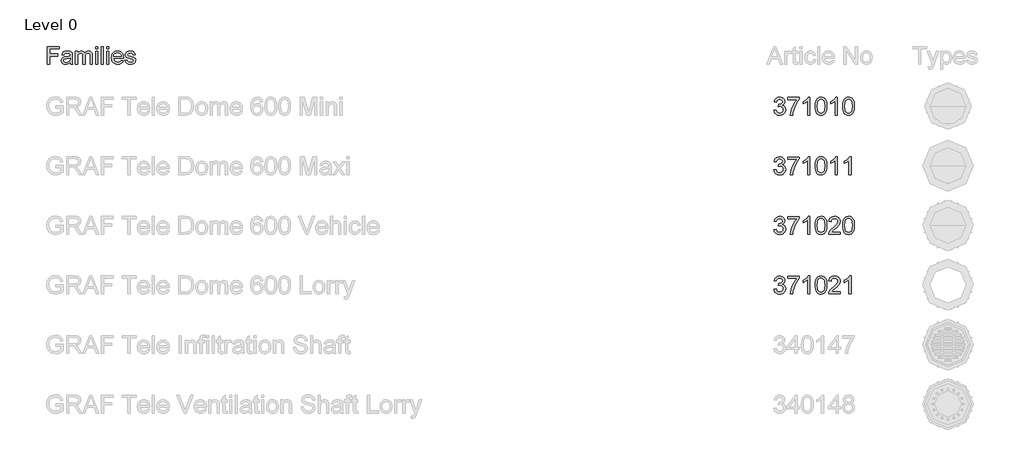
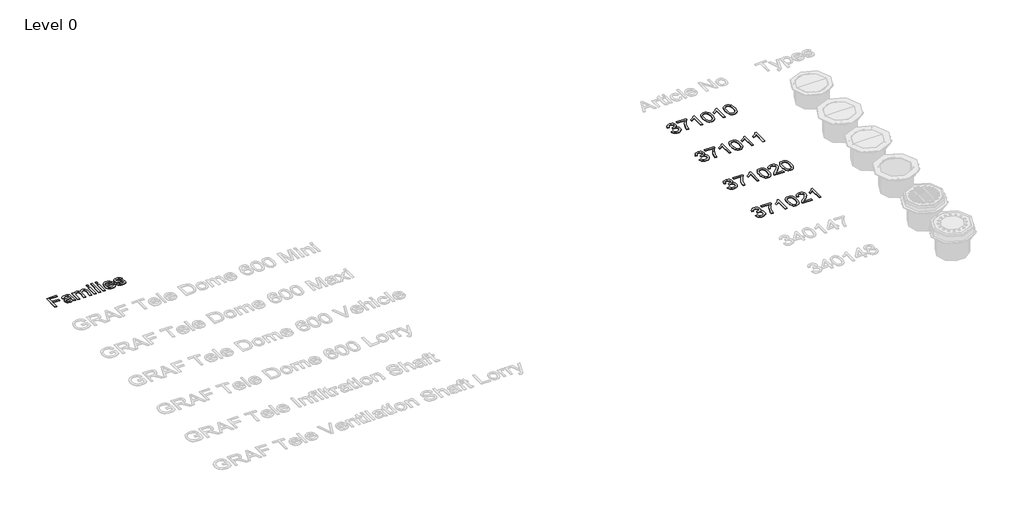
# One storey, part 24 of 25: 5 proxies.
"""IFC4 building model written with IfcOpenShell, lengths in millimetres."""

from ifc_helpers import new_model, si_unit, origin, origin_with_axes, place, context, project, spatial, polyline, outline, extrude, element, save

model = new_model("IFC4")

# Units and contexts
model_context = context("Model", 3, world=origin())
ifc_project = project(units=[si_unit("LENGTHUNIT", "METRE", prefix="MILLI")], contexts=[model_context])

# Site, building, storey
site = spatial("IfcSite", under=ifc_project)
building = spatial("IfcBuilding", under=site)
storey = spatial("IfcBuildingStorey", under=building, Name="Level 0", Elevation=0.0)

# Proxies
placement = place(None, origin())
element("IfcBuildingElementProxy", 1, Name="300mm Arial", ObjectType="300mm Arial", at=placement, inside=storey, context=model_context, shape_type="SweptSolid", body=[
    extrude(outline(polyline([(-15382.9152593, 8653.8274553), (-15382.9152593, 8949.2120707), (-15184.4537209, 8949.2120707), (-15184.4537209, 8912.2889938), (-15345.9921824, 8912.2889938), (-15345.9921824, 8824.5966861), (-15207.530644, 8824.5966861), (-15207.530644, 8787.6736092), (-15345.9921824, 8787.6736092), (-15345.9921824, 8653.8274553), (-15382.9152593, 8653.8274553)])), origin_with_axes(), (0.0, 0.0, 1.0), 10.0),
    extrude(outline(polyline([(-14999.8383363, 8681.519763), (-15017.4795622, 8666.3935611), (-15035.6436247, 8656.4957246), (-15054.7451872, 8651.0329842), (-15075.1989132, 8649.2120707), (-15106.0552834, 8653.5930803), (-15128.8167017, 8666.7361092), (-15142.8521584, 8686.6940419), (-15147.530644, 8711.519763), (-15145.763817, 8726.8262534), (-15140.4633363, 8740.7264938), (-15132.2872545, 8752.6255323), (-15121.8936247, 8761.9284169), (-15096.0402593, 8774.0438015), (-15064.093144, 8779.5966861), (-15026.3407401, 8785.4380323), (-15000.0546824, 8792.2889938), (-14999.8383363, 8800.5101476), (-15002.3804036, 8816.988513), (-15010.0066055, 8827.769763), (-15027.061894, 8835.7745707), (-15050.8239132, 8838.44284), (-15072.8191055, 8836.6669986), (-15088.1796824, 8831.3394746), (-15098.654442, 8821.4867101), (-15105.9921824, 8806.1351476), (-15142.9152593, 8810.7505323), (-15136.5060045, 8830.94284), (-15126.9417017, 8846.8082246), (-15113.3299228, 8858.941638), (-15094.7782401, 8867.9380323), (-15072.0889372, 8873.5089457), (-15046.0642978, 8875.3659169), (-15021.1033603, 8873.7252919), (-15001.3167017, 8868.8034169), (-14986.3978315, 8861.4025755), (-14976.0402593, 8852.3250515), (-14969.171269, 8841.1020948), (-14964.718144, 8827.2649553), (-14962.9152593, 8794.957263), (-14962.9152593, 8749.019763), (-14961.0402593, 8684.8731284), (-14953.6844901, 8653.8274553), (-14990.607567, 8653.8274553), (-14999.8383363, 8681.519763)]), holes=[polyline([(-14999.8383363, 8755.3659169), (-15059.405644, 8744.0438015), (-15091.1724709, 8738.0582246), (-15105.5594901, 8728.3226476), (-15110.607567, 8714.1159169), (-15107.858168, 8703.1363496), (-15099.6099709, 8694.1399553), (-15086.0432642, 8688.1363496), (-15067.3383363, 8686.1351476), (-15047.5066055, 8688.3436813), (-15029.982567, 8694.9692823), (-15015.7758363, 8704.7319025), (-15005.8960286, 8716.3514938), (-15001.515019, 8728.3226476), (-15000.0546824, 8744.9091861), (-14999.8383363, 8755.3659169)])]), origin_with_axes(), (0.0, 0.0, 1.0), 10.0),
    extrude(outline(polyline([(-14912.1460286, 8653.8274553), (-14912.1460286, 8870.7505323), (-14875.2229517, 8870.7505323), (-14875.2229517, 8835.0534169), (-14864.1171824, 8851.4506525), (-14849.8383363, 8864.2962053), (-14832.873192, 8872.598489), (-14813.7085286, 8875.3659169), (-14793.1736728, 8872.5444025), (-14776.7133363, 8864.0798592), (-14764.4176632, 8850.5311813), (-14756.3767978, 8832.457263), (-14742.9182642, 8851.2297991), (-14727.5667017, 8864.6387534), (-14710.3221103, 8872.684126), (-14691.1844901, 8875.3659169), (-14663.4290815, 8870.9037775), (-14642.9032401, 8857.5173592), (-14630.2199468, 8834.8460851), (-14625.9921824, 8802.5293784), (-14625.9921824, 8653.8274553), (-14662.9152593, 8653.8274553), (-14662.9152593, 8786.6639938), (-14666.3407401, 8817.4933207), (-14671.154442, 8825.9939217), (-14678.7445863, 8832.6736092), (-14688.5072065, 8837.0005323), (-14699.8383363, 8838.44284), (-14719.8413411, 8834.7469265), (-14736.1484324, 8823.6591861), (-14746.9927834, 8804.4224073), (-14750.607567, 8776.2793784), (-14750.607567, 8653.8274553), (-14787.530644, 8653.8274553), (-14787.530644, 8790.7745707), (-14789.6670622, 8811.6519746), (-14796.076317, 8826.5438015), (-14807.3533603, 8835.4680803), (-14824.093144, 8838.44284), (-14838.3179036, 8836.4596669), (-14851.4248747, 8830.5101476), (-14862.2421824, 8820.738513), (-14869.5979517, 8807.2889938), (-14873.8167017, 8788.629138), (-14875.2229517, 8763.2264938), (-14875.2229517, 8653.8274553), (-14912.1460286, 8653.8274553)])), origin_with_axes(), (0.0, 0.0, 1.0), 10.0),
    extrude(outline(polyline([(-14570.607567, 8912.2889938), (-14570.607567, 8949.2120707), (-14533.6844901, 8949.2120707), (-14533.6844901, 8912.2889938), (-14570.607567, 8912.2889938)])), origin_with_axes(), (0.0, 0.0, 1.0), 10.0),
    extrude(outline(polyline([(-14570.607567, 8653.8274553), (-14570.607567, 8870.7505323), (-14533.6844901, 8870.7505323), (-14533.6844901, 8653.8274553), (-14570.607567, 8653.8274553)])), origin_with_axes(), (0.0, 0.0, 1.0), 10.0),
    extrude(outline(polyline([(-14478.2998747, 8653.8274553), (-14478.2998747, 8949.2120707), (-14441.3767978, 8949.2120707), (-14441.3767978, 8653.8274553), (-14478.2998747, 8653.8274553)])), origin_with_axes(), (0.0, 0.0, 1.0), 10.0),
    extrude(outline(polyline([(-14385.9921824, 8912.2889938), (-14385.9921824, 8949.2120707), (-14349.0691055, 8949.2120707), (-14349.0691055, 8912.2889938), (-14385.9921824, 8912.2889938)])), origin_with_axes(), (0.0, 0.0, 1.0), 10.0),
    extrude(outline(polyline([(-14385.9921824, 8653.8274553), (-14385.9921824, 8870.7505323), (-14349.0691055, 8870.7505323), (-14349.0691055, 8653.8274553), (-14385.9921824, 8653.8274553)])), origin_with_axes(), (0.0, 0.0, 1.0), 10.0),
    extrude(outline(polyline([(-14141.8094901, 8718.44284), (-14105.607567, 8713.8274553), (-14118.6514372, 8686.5498111), (-14139.4657401, 8666.1591861), (-14167.5817257, 8653.4488496), (-14202.530644, 8649.2120707), (-14225.4408002, 8651.039745), (-14245.8539613, 8656.5227678), (-14263.7701271, 8665.6611392), (-14279.1892978, 8678.4548592), (-14291.5886367, 8694.547858), (-14300.4453074, 8713.5840659), (-14305.7593098, 8735.563483), (-14307.530644, 8760.4861092), (-14305.741281, 8786.2538375), (-14300.373192, 8808.9656765), (-14291.4263771, 8828.621626), (-14278.9008363, 8845.2216861), (-14263.5222305, 8858.4097871), (-14246.0162209, 8867.8298592), (-14226.3828074, 8873.4819025), (-14204.6219901, 8875.3659169), (-14183.5620442, 8873.4864097), (-14164.5168218, 8867.847888), (-14147.486323, 8858.450352), (-14132.4705478, 8845.2938015), (-14120.213186, 8828.7297991), (-14111.4579276, 8809.1099073), (-14106.2047726, 8786.434126), (-14104.4537209, 8760.7024553), (-14104.670067, 8750.7505323), (-14270.607567, 8750.7505323), (-14264.2163411, 8723.1123111), (-14249.3695863, 8702.7938015), (-14227.9423026, 8690.2998111), (-14201.8094901, 8686.1351476), (-14182.1580478, 8688.0642342), (-14165.607567, 8693.8514938), (-14152.1580478, 8703.8575034), (-14141.8094901, 8718.44284)]), holes=[polyline([(-14270.607567, 8787.6736092), (-14141.3767978, 8787.6736092), (-14146.3707882, 8807.1808207), (-14156.1604517, 8821.1351476), (-14177.686894, 8834.1159169), (-14204.7662209, 8838.44284), (-14229.655043, 8834.9903159), (-14250.2349709, 8824.6327438), (-14264.5408603, 8808.4879121), (-14270.607567, 8787.6736092)])]), origin_with_axes(), (0.0, 0.0, 1.0), 10.0),
    extrude(outline(polyline([(-14081.3767978, 8718.44284), (-14044.4537209, 8723.0582246), (-14038.6304036, 8707.2649553), (-14027.3623747, 8695.6543784), (-14010.577519, 8688.5149553), (-13988.2037209, 8686.1351476), (-13966.1003555, 8688.316638), (-13950.5594901, 8694.8611092), (-13941.3647786, 8704.3442823), (-13938.2998747, 8715.3418784), (-13941.3828074, 8724.7529361), (-13950.6316055, 8731.9284169), (-13988.6364132, 8742.457263), (-14044.2373747, 8760.5221669), (-14058.3088892, 8769.5996909), (-14068.5042017, 8781.6159169), (-14074.6971103, 8795.8046188), (-14076.7614132, 8811.3995707), (-14075.1027593, 8825.7054601), (-14070.1267978, 8838.91159), (-14062.2842497, 8850.4951236), (-14052.0258363, 8859.9332246), (-14028.5522786, 8870.8587053), (-13996.7854517, 8875.3659169), (-13972.7529997, 8873.5540178), (-13951.857567, 8868.1183207), (-13935.0546824, 8859.5906765), (-13923.2998747, 8848.5029361), (-13915.5114132, 8834.0347871), (-13910.607567, 8815.3659169), (-13947.530644, 8810.7505323), (-13952.1911007, 8822.3701236), (-13961.4128555, 8831.1231284), (-13975.2860526, 8836.6129121), (-13993.9008363, 8838.44284), (-14015.1027593, 8836.6940419), (-14029.2373747, 8831.4476476), (-14037.1880959, 8823.8755323), (-14039.8383363, 8815.1495707), (-14035.4392978, 8804.4043784), (-14021.6652593, 8796.25534), (-13989.8623747, 8788.394763), (-13935.6676632, 8771.0149553), (-13921.3527593, 8762.7036573), (-13910.499394, 8751.3274553), (-13903.6574468, 8736.8502919), (-13901.3767978, 8719.2361092), (-13904.0540815, 8701.0269746), (-13912.0859324, 8683.8995707), (-13925.1658603, 8669.1970467), (-13942.9873747, 8658.2625515), (-13964.513817, 8651.4746909), (-13988.7085286, 8649.2120707), (-14025.9380959, 8653.5750515), (-14053.107567, 8666.6639938), (-14071.2445863, 8688.3346669), (-14081.3767978, 8718.44284)])), origin_with_axes(), (0.0, 0.0, 1.0), 10.0),
])
element("IfcBuildingElementProxy", 2, Name="300mm Arial", ObjectType="300mm Arial", at=placement, inside=storey, context=model_context, shape_type="SweptSolid", body=[
    extrude(outline(polyline([(-3192.0538732, 7879.074324), (-3154.3827568, 7883.7832135), (-3145.9490621, 7860.1100071), (-3133.5974241, 7844.1255344), (-3116.7208376, 7835.020455), (-3094.7122972, 7831.9854286), (-3068.8869812, 7836.1608892), (-3048.947777, 7848.6872712), (-3036.2006659, 7867.3756765), (-3031.9516289, 7890.0372074), (-3036.1638777, 7911.5491071), (-3048.8006242, 7928.9959107), (-3067.930488, 7940.5566024), (-3091.6220885, 7944.4101663), (-3118.0360157, 7940.289888), (-3113.842161, 7977.9610043), (-3107.8088963, 7977.5195459), (-3085.2393359, 7980.2234785), (-3065.0610084, 7988.3352765), (-3050.8239752, 8002.057275), (-3046.0782975, 8021.5918089), (-3049.5179941, 8037.8613901), (-3059.8370841, 8051.0591567), (-3075.5824335, 8059.8055512), (-3095.3009084, 8062.721016), (-3115.0561716, 8059.77796), (-3131.2061912, 8050.9487921), (-3142.9968091, 8036.2335123), (-3149.6738673, 8015.6321206), (-3187.3449836, 8020.3410101), (-3176.2533415, 8054.1677596), (-3156.5164724, 8079.4228585), (-3129.513934, 8095.1498138), (-3096.6252836, 8100.3921323), (-3072.9428802, 8097.8077613), (-3051.1918572, 8090.0546482), (-3032.8529397, 8077.8225719), (-3019.4068528, 8061.801311), (-3011.1570991, 8043.3428319), (-3008.4071812, 8023.7991009), (-3011.0191433, 8005.5889421), (-3018.8550298, 7989.0710405), (-3031.8044761, 7974.9995542), (-3049.7571174, 7964.1286413), (-3026.1758815, 7954.6004976), (-3008.7014868, 7938.3769016), (-2997.8857561, 7916.3407701), (-2994.2805125, 7889.3750198), (-2996.0831343, 7870.2635502), (-3001.4909997, 7852.6603967), (-3010.5041085, 7836.5655594), (-3023.122461, 7821.9790383), (-3038.4953298, 7809.8757207), (-3055.771988, 7801.2304938), (-3074.9524356, 7796.0433577), (-3096.0366724, 7794.3143123), (-3115.0929598, 7795.7904388), (-3132.4569899, 7800.2188183), (-3148.1287629, 7807.5994508), (-3162.1082787, 7817.9323364), (-3173.8299188, 7830.6104696), (-3182.7280646, 7845.0268453), (-3188.802716, 7861.1814634), (-3192.0538732, 7879.074324)])), origin_with_axes(), (0.0, 0.0, 1.0), 10.0),
    extrude(outline(polyline([(-2961.3182858, 8058.0121264), (-2961.3182858, 8095.6832427), (-2763.5449252, 8095.6832427), (-2763.5449252, 8065.2226135), (-2791.7338831, 8029.547257), (-2819.6469294, 7984.17821), (-2844.267432, 7933.2541448), (-2862.5787583, 7880.9137339), (-2871.555079, 7841.7526956), (-2876.5582741, 7799.0232018), (-2914.2293904, 7799.0232018), (-2910.1550973, 7837.8531464), (-2899.2565932, 7884.0039427), (-2881.8281837, 7932.923051), (-2858.1641743, 7980.0579316), (-2830.5362365, 8022.6678637), (-2801.2160415, 8058.0121264), (-2961.3182858, 8058.0121264)])), origin_with_axes(), (0.0, 0.0, 1.0), 10.0),
    extrude(outline(polyline([(-2589.3160123, 7799.0232018), (-2626.9871286, 7799.0232018), (-2626.9871286, 8033.8790675), (-2662.6716821, 8008.4584217), (-2702.3293612, 7989.4389225), (-2702.3293612, 8025.0498997), (-2672.7424517, 8041.1447369), (-2647.1102737, 8060.2929948), (-2626.9043551, 8080.6552632), (-2613.5962239, 8100.3921323), (-2589.3160123, 8100.3921323), (-2589.3160123, 7799.0232018)])), origin_with_axes(), (0.0, 0.0, 1.0), 10.0),
    extrude(outline(polyline([(-2499.847111, 7947.2796459), (-2497.078799, 7995.5181725), (-2488.773863, 8033.9894321), (-2475.0150764, 8063.282036), (-2455.8852126, 8083.9845953), (-2431.246316, 8096.290248), (-2400.9604307, 8100.3921323), (-2377.7470768, 8097.9641111), (-2356.9617441, 8090.6800476), (-2339.5793198, 8078.8250503), (-2326.5746913, 8062.6842278), (-2316.752242, 8042.3955357), (-2308.9163555, 8018.0969299), (-2303.7844017, 7987.2408276), (-2302.0737504, 7947.2796459), (-2304.8144713, 7899.3170308), (-2313.0366339, 7860.9377416), (-2326.7126471, 7831.6175466), (-2345.8149197, 7810.8322139), (-2370.5089986, 7798.4437877), (-2400.9604307, 7794.3143123), (-2421.7089753, 7796.107737), (-2440.103075, 7801.4880112), (-2456.14273, 7810.4551348), (-2469.8279402, 7823.0091079), (-2482.9613275, 7845.7028285), (-2492.3423183, 7873.9791583), (-2497.9709129, 7907.8380975), (-2499.847111, 7947.2796459)]), holes=[polyline([(-2462.1759947, 7947.3532223), (-2457.7614108, 7888.0966299), (-2452.2431809, 7867.8286312), (-2444.517659, 7853.8008309), (-2424.799184, 7837.4392792), (-2400.9604307, 7831.9854286), (-2377.1216774, 7837.4576733), (-2357.4032025, 7853.8744073), (-2349.6776806, 7867.9252003), (-2344.1594507, 7888.1886004), (-2339.7448667, 7947.3532223), (-2344.0122979, 8005.2762424), (-2349.3465868, 8025.4775625), (-2356.8145913, 8039.8387559), (-2376.496278, 8057.0004509), (-2401.4018891, 8062.721016), (-2424.983125, 8057.6810326), (-2443.9290478, 8042.5610826), (-2451.9120871, 8026.9260978), (-2457.614258, 8005.8464595), (-2462.1759947, 7947.3532223)])]), origin_with_axes(), (0.0, 0.0, 1.0), 10.0),
    extrude(outline(polyline([(-2127.8448375, 7799.0232018), (-2165.5159538, 7799.0232018), (-2165.5159538, 8033.8790675), (-2201.2005073, 8008.4584217), (-2240.8581864, 7989.4389225), (-2240.8581864, 8025.0498997), (-2211.271277, 8041.1447369), (-2185.639099, 8060.2929948), (-2165.4331804, 8080.6552632), (-2152.1250492, 8100.3921323), (-2127.8448375, 8100.3921323), (-2127.8448375, 7799.0232018)])), origin_with_axes(), (0.0, 0.0, 1.0), 10.0),
    extrude(outline(polyline([(-2038.3759363, 7947.2796459), (-2035.6076243, 7995.5181725), (-2027.3026882, 8033.9894321), (-2013.5439016, 8063.282036), (-1994.4140379, 8083.9845953), (-1969.7751412, 8096.290248), (-1939.489256, 8100.3921323), (-1916.2759021, 8097.9641111), (-1895.4905694, 8090.6800476), (-1878.1081451, 8078.8250503), (-1865.1035166, 8062.6842278), (-1855.2810673, 8042.3955357), (-1847.4451808, 8018.0969299), (-1842.313227, 7987.2408276), (-1840.6025757, 7947.2796459), (-1843.3432965, 7899.3170308), (-1851.5654591, 7860.9377416), (-1865.2414723, 7831.6175466), (-1884.3437449, 7810.8322139), (-1909.0378238, 7798.4437877), (-1939.489256, 7794.3143123), (-1960.2378005, 7796.107737), (-1978.6319003, 7801.4880112), (-1994.6715553, 7810.4551348), (-2008.3567655, 7823.0091079), (-2021.4901527, 7845.7028285), (-2030.8711436, 7873.9791583), (-2036.4997381, 7907.8380975), (-2038.3759363, 7947.2796459)]), holes=[polyline([(-2000.70482, 7947.3532223), (-1996.290236, 7888.0966299), (-1990.7720061, 7867.8286312), (-1983.0464842, 7853.8008309), (-1963.3280093, 7837.4392792), (-1939.489256, 7831.9854286), (-1915.6505027, 7837.4576733), (-1895.9320277, 7853.8744073), (-1888.2065058, 7867.9252003), (-1882.6882759, 7888.1886004), (-1878.273692, 7947.3532223), (-1882.5411231, 8005.2762424), (-1887.8754121, 8025.4775625), (-1895.3434166, 8039.8387559), (-1915.0251033, 8057.0004509), (-1939.9307144, 8062.721016), (-1963.5119503, 8057.6810326), (-1982.457873, 8042.5610826), (-1990.4409123, 8026.9260978), (-1996.1430832, 8005.8464595), (-2000.70482, 7947.3532223)])]), origin_with_axes(), (0.0, 0.0, 1.0), 10.0),
])
element("IfcBuildingElementProxy", 3, Name="300mm Arial", ObjectType="300mm Arial", at=placement, inside=storey, context=model_context, shape_type="SweptSolid", body=[
    extrude(outline(polyline([(-3192.0538732, 6879.074324), (-3154.3827568, 6883.7832135), (-3145.9490621, 6860.1100071), (-3133.5974241, 6844.1255344), (-3116.7208376, 6835.020455), (-3094.7122972, 6831.9854286), (-3068.8869812, 6836.1608892), (-3048.947777, 6848.6872712), (-3036.2006659, 6867.3756765), (-3031.9516289, 6890.0372074), (-3036.1638777, 6911.5491071), (-3048.8006242, 6928.9959107), (-3067.930488, 6940.5566024), (-3091.6220885, 6944.4101663), (-3118.0360157, 6940.289888), (-3113.842161, 6977.9610043), (-3107.8088963, 6977.5195459), (-3085.2393359, 6980.2234785), (-3065.0610084, 6988.3352765), (-3050.8239752, 7002.057275), (-3046.0782975, 7021.5918089), (-3049.5179941, 7037.8613901), (-3059.8370841, 7051.0591567), (-3075.5824335, 7059.8055512), (-3095.3009084, 7062.721016), (-3115.0561716, 7059.77796), (-3131.2061912, 7050.9487921), (-3142.9968091, 7036.2335123), (-3149.6738673, 7015.6321206), (-3187.3449836, 7020.3410101), (-3176.2533415, 7054.1677596), (-3156.5164724, 7079.4228585), (-3129.513934, 7095.1498138), (-3096.6252836, 7100.3921323), (-3072.9428802, 7097.8077613), (-3051.1918572, 7090.0546482), (-3032.8529397, 7077.8225719), (-3019.4068528, 7061.801311), (-3011.1570991, 7043.3428319), (-3008.4071812, 7023.7991009), (-3011.0191433, 7005.5889421), (-3018.8550298, 6989.0710405), (-3031.8044761, 6974.9995542), (-3049.7571174, 6964.1286413), (-3026.1758815, 6954.6004976), (-3008.7014868, 6938.3769016), (-2997.8857561, 6916.3407701), (-2994.2805125, 6889.3750198), (-2996.0831343, 6870.2635502), (-3001.4909997, 6852.6603967), (-3010.5041085, 6836.5655594), (-3023.122461, 6821.9790383), (-3038.4953298, 6809.8757207), (-3055.771988, 6801.2304938), (-3074.9524356, 6796.0433577), (-3096.0366724, 6794.3143123), (-3115.0929598, 6795.7904388), (-3132.4569899, 6800.2188183), (-3148.1287629, 6807.5994508), (-3162.1082787, 6817.9323364), (-3173.8299188, 6830.6104696), (-3182.7280646, 6845.0268453), (-3188.802716, 6861.1814634), (-3192.0538732, 6879.074324)])), origin_with_axes(), (0.0, 0.0, 1.0), 10.0),
    extrude(outline(polyline([(-2961.3182858, 7058.0121264), (-2961.3182858, 7095.6832427), (-2763.5449252, 7095.6832427), (-2763.5449252, 7065.2226135), (-2791.7338831, 7029.547257), (-2819.6469294, 6984.17821), (-2844.267432, 6933.2541448), (-2862.5787583, 6880.9137339), (-2871.555079, 6841.7526956), (-2876.5582741, 6799.0232018), (-2914.2293904, 6799.0232018), (-2910.1550973, 6837.8531464), (-2899.2565932, 6884.0039427), (-2881.8281837, 6932.923051), (-2858.1641743, 6980.0579316), (-2830.5362365, 7022.6678637), (-2801.2160415, 7058.0121264), (-2961.3182858, 7058.0121264)])), origin_with_axes(), (0.0, 0.0, 1.0), 10.0),
    extrude(outline(polyline([(-2589.3160123, 6799.0232018), (-2626.9871286, 6799.0232018), (-2626.9871286, 7033.8790675), (-2662.6716821, 7008.4584217), (-2702.3293612, 6989.4389225), (-2702.3293612, 7025.0498997), (-2672.7424517, 7041.1447369), (-2647.1102737, 7060.2929948), (-2626.9043551, 7080.6552632), (-2613.5962239, 7100.3921323), (-2589.3160123, 7100.3921323), (-2589.3160123, 6799.0232018)])), origin_with_axes(), (0.0, 0.0, 1.0), 10.0),
    extrude(outline(polyline([(-2499.847111, 6947.2796459), (-2497.078799, 6995.5181725), (-2488.773863, 7033.9894321), (-2475.0150764, 7063.282036), (-2455.8852126, 7083.9845953), (-2431.246316, 7096.290248), (-2400.9604307, 7100.3921323), (-2377.7470768, 7097.9641111), (-2356.9617441, 7090.6800476), (-2339.5793198, 7078.8250503), (-2326.5746913, 7062.6842278), (-2316.752242, 7042.3955357), (-2308.9163555, 7018.0969299), (-2303.7844017, 6987.2408276), (-2302.0737504, 6947.2796459), (-2304.8144713, 6899.3170308), (-2313.0366339, 6860.9377416), (-2326.7126471, 6831.6175466), (-2345.8149197, 6810.8322139), (-2370.5089986, 6798.4437877), (-2400.9604307, 6794.3143123), (-2421.7089753, 6796.107737), (-2440.103075, 6801.4880112), (-2456.14273, 6810.4551348), (-2469.8279402, 6823.0091079), (-2482.9613275, 6845.7028285), (-2492.3423183, 6873.9791583), (-2497.9709129, 6907.8380975), (-2499.847111, 6947.2796459)]), holes=[polyline([(-2462.1759947, 6947.3532223), (-2457.7614108, 6888.0966299), (-2452.2431809, 6867.8286312), (-2444.517659, 6853.8008309), (-2424.799184, 6837.4392792), (-2400.9604307, 6831.9854286), (-2377.1216774, 6837.4576733), (-2357.4032025, 6853.8744073), (-2349.6776806, 6867.9252003), (-2344.1594507, 6888.1886004), (-2339.7448667, 6947.3532223), (-2344.0122979, 7005.2762424), (-2349.3465868, 7025.4775625), (-2356.8145913, 7039.8387559), (-2376.496278, 7057.0004509), (-2401.4018891, 7062.721016), (-2424.983125, 7057.6810326), (-2443.9290478, 7042.5610826), (-2451.9120871, 7026.9260978), (-2457.614258, 7005.8464595), (-2462.1759947, 6947.3532223)])]), origin_with_axes(), (0.0, 0.0, 1.0), 10.0),
    extrude(outline(polyline([(-2127.8448375, 6799.0232018), (-2165.5159538, 6799.0232018), (-2165.5159538, 7033.8790675), (-2201.2005073, 7008.4584217), (-2240.8581864, 6989.4389225), (-2240.8581864, 7025.0498997), (-2211.271277, 7041.1447369), (-2185.639099, 7060.2929948), (-2165.4331804, 7080.6552632), (-2152.1250492, 7100.3921323), (-2127.8448375, 7100.3921323), (-2127.8448375, 6799.0232018)])), origin_with_axes(), (0.0, 0.0, 1.0), 10.0),
    extrude(outline(polyline([(-1897.1092501, 6799.0232018), (-1934.7803664, 6799.0232018), (-1934.7803664, 7033.8790675), (-1970.46492, 7008.4584217), (-2010.1225991, 6989.4389225), (-2010.1225991, 7025.0498997), (-1980.5356896, 7041.1447369), (-1954.9035116, 7060.2929948), (-1934.697593, 7080.6552632), (-1921.3894618, 7100.3921323), (-1897.1092501, 7100.3921323), (-1897.1092501, 6799.0232018)])), origin_with_axes(), (0.0, 0.0, 1.0), 10.0),
])
element("IfcBuildingElementProxy", 4, Name="300mm Arial", ObjectType="300mm Arial", at=placement, inside=storey, context=model_context, shape_type="SweptSolid", body=[
    extrude(outline(polyline([(-3192.0538732, 5879.074324), (-3154.3827568, 5883.7832135), (-3145.9490621, 5860.1100071), (-3133.5974241, 5844.1255344), (-3116.7208376, 5835.020455), (-3094.7122972, 5831.9854286), (-3068.8869812, 5836.1608892), (-3048.947777, 5848.6872712), (-3036.2006659, 5867.3756765), (-3031.9516289, 5890.0372074), (-3036.1638777, 5911.5491071), (-3048.8006242, 5928.9959107), (-3067.930488, 5940.5566024), (-3091.6220885, 5944.4101663), (-3118.0360157, 5940.289888), (-3113.842161, 5977.9610043), (-3107.8088963, 5977.5195459), (-3085.2393359, 5980.2234785), (-3065.0610084, 5988.3352765), (-3050.8239752, 6002.057275), (-3046.0782975, 6021.5918089), (-3049.5179941, 6037.8613901), (-3059.8370841, 6051.0591567), (-3075.5824335, 6059.8055512), (-3095.3009084, 6062.721016), (-3115.0561716, 6059.77796), (-3131.2061912, 6050.9487921), (-3142.9968091, 6036.2335123), (-3149.6738673, 6015.6321206), (-3187.3449836, 6020.3410101), (-3176.2533415, 6054.1677596), (-3156.5164724, 6079.4228585), (-3129.513934, 6095.1498138), (-3096.6252836, 6100.3921323), (-3072.9428802, 6097.8077613), (-3051.1918572, 6090.0546482), (-3032.8529397, 6077.8225719), (-3019.4068528, 6061.801311), (-3011.1570991, 6043.3428319), (-3008.4071812, 6023.7991009), (-3011.0191433, 6005.5889421), (-3018.8550298, 5989.0710405), (-3031.8044761, 5974.9995542), (-3049.7571174, 5964.1286413), (-3026.1758815, 5954.6004976), (-3008.7014868, 5938.3769016), (-2997.8857561, 5916.3407701), (-2994.2805125, 5889.3750198), (-2996.0831343, 5870.2635502), (-3001.4909997, 5852.6603967), (-3010.5041085, 5836.5655594), (-3023.122461, 5821.9790383), (-3038.4953298, 5809.8757207), (-3055.771988, 5801.2304938), (-3074.9524356, 5796.0433577), (-3096.0366724, 5794.3143123), (-3115.0929598, 5795.7904388), (-3132.4569899, 5800.2188183), (-3148.1287629, 5807.5994508), (-3162.1082787, 5817.9323364), (-3173.8299188, 5830.6104696), (-3182.7280646, 5845.0268453), (-3188.802716, 5861.1814634), (-3192.0538732, 5879.074324)])), origin_with_axes(), (0.0, 0.0, 1.0), 10.0),
    extrude(outline(polyline([(-2961.3182858, 6058.0121264), (-2961.3182858, 6095.6832427), (-2763.5449252, 6095.6832427), (-2763.5449252, 6065.2226135), (-2791.7338831, 6029.547257), (-2819.6469294, 5984.17821), (-2844.267432, 5933.2541448), (-2862.5787583, 5880.9137339), (-2871.555079, 5841.7526956), (-2876.5582741, 5799.0232018), (-2914.2293904, 5799.0232018), (-2910.1550973, 5837.8531464), (-2899.2565932, 5884.0039427), (-2881.8281837, 5932.923051), (-2858.1641743, 5980.0579316), (-2830.5362365, 6022.6678637), (-2801.2160415, 6058.0121264), (-2961.3182858, 6058.0121264)])), origin_with_axes(), (0.0, 0.0, 1.0), 10.0),
    extrude(outline(polyline([(-2589.3160123, 5799.0232018), (-2626.9871286, 5799.0232018), (-2626.9871286, 6033.8790675), (-2662.6716821, 6008.4584217), (-2702.3293612, 5989.4389225), (-2702.3293612, 6025.0498997), (-2672.7424517, 6041.1447369), (-2647.1102737, 6060.2929948), (-2626.9043551, 6080.6552632), (-2613.5962239, 6100.3921323), (-2589.3160123, 6100.3921323), (-2589.3160123, 5799.0232018)])), origin_with_axes(), (0.0, 0.0, 1.0), 10.0),
    extrude(outline(polyline([(-2499.847111, 5947.2796459), (-2497.078799, 5995.5181725), (-2488.773863, 6033.9894321), (-2475.0150764, 6063.282036), (-2455.8852126, 6083.9845953), (-2431.246316, 6096.290248), (-2400.9604307, 6100.3921323), (-2377.7470768, 6097.9641111), (-2356.9617441, 6090.6800476), (-2339.5793198, 6078.8250503), (-2326.5746913, 6062.6842278), (-2316.752242, 6042.3955357), (-2308.9163555, 6018.0969299), (-2303.7844017, 5987.2408276), (-2302.0737504, 5947.2796459), (-2304.8144713, 5899.3170308), (-2313.0366339, 5860.9377416), (-2326.7126471, 5831.6175466), (-2345.8149197, 5810.8322139), (-2370.5089986, 5798.4437877), (-2400.9604307, 5794.3143123), (-2421.7089753, 5796.107737), (-2440.103075, 5801.4880112), (-2456.14273, 5810.4551348), (-2469.8279402, 5823.0091079), (-2482.9613275, 5845.7028285), (-2492.3423183, 5873.9791583), (-2497.9709129, 5907.8380975), (-2499.847111, 5947.2796459)]), holes=[polyline([(-2462.1759947, 5947.3532223), (-2457.7614108, 5888.0966299), (-2452.2431809, 5867.8286312), (-2444.517659, 5853.8008309), (-2424.799184, 5837.4392792), (-2400.9604307, 5831.9854286), (-2377.1216774, 5837.4576733), (-2357.4032025, 5853.8744073), (-2349.6776806, 5867.9252003), (-2344.1594507, 5888.1886004), (-2339.7448667, 5947.3532223), (-2344.0122979, 6005.2762424), (-2349.3465868, 6025.4775625), (-2356.8145913, 6039.8387559), (-2376.496278, 6057.0004509), (-2401.4018891, 6062.721016), (-2424.983125, 6057.6810326), (-2443.9290478, 6042.5610826), (-2451.9120871, 6026.9260978), (-2457.614258, 6005.8464595), (-2462.1759947, 5947.3532223)])]), origin_with_axes(), (0.0, 0.0, 1.0), 10.0),
    extrude(outline(polyline([(-2076.0470526, 5836.6943181), (-2076.0470526, 5799.0232018), (-2273.8204132, 5799.0232018), (-2269.7737112, 5824.9956707), (-2260.4846909, 5845.2935598), (-2246.8914511, 5864.9844436), (-2227.2281585, 5885.5950323), (-2199.7289794, 5908.6520364), (-2159.0780189, 5944.7596542), (-2134.6874426, 5971.4127048), (-2122.4921545, 5993.0441661), (-2118.4270584, 6014.0870162), (-2122.2622282, 6032.9501655), (-2133.7677376, 6048.6311355), (-2151.4536645, 6059.1985459), (-2173.8300869, 6062.721016), (-2197.3285493, 6059.2813193), (-2215.5846934, 6048.9622293), (-2227.3661143, 6032.5730865), (-2231.4404073, 6010.923231), (-2269.1115237, 6015.6321206), (-2259.9788531, 6052.0708322), (-2251.4324945, 6066.6067695), (-2240.232787, 6078.6870946), (-2226.6372481, 6088.1830486), (-2210.903395, 6094.9658728), (-2173.0207465, 6100.3921323), (-2152.8309228, 6098.8838161), (-2134.8621866, 6094.3588675), (-2119.1145379, 6086.8172866), (-2105.5879768, 6076.2590734), (-2094.7239616, 6063.465977), (-2086.9639508, 6049.2197467), (-2082.3079443, 6033.5203826), (-2080.7559421, 6016.3678846), (-2082.4298052, 5998.3508639), (-2087.4513944, 5980.6465428), (-2096.3633358, 5962.6387192), (-2109.7082551, 5943.7111905), (-2130.9810315, 5921.114039), (-2163.6765438, 5892.0973466), (-2207.0130429, 5855.8609701), (-2224.009191, 5836.6943181), (-2076.0470526, 5836.6943181)])), origin_with_axes(), (0.0, 0.0, 1.0), 10.0),
    extrude(outline(polyline([(-2038.3759363, 5947.2796459), (-2035.6076243, 5995.5181725), (-2027.3026882, 6033.9894321), (-2013.5439016, 6063.282036), (-1994.4140379, 6083.9845953), (-1969.7751412, 6096.290248), (-1939.489256, 6100.3921323), (-1916.2759021, 6097.9641111), (-1895.4905694, 6090.6800476), (-1878.1081451, 6078.8250503), (-1865.1035166, 6062.6842278), (-1855.2810673, 6042.3955357), (-1847.4451808, 6018.0969299), (-1842.313227, 5987.2408276), (-1840.6025757, 5947.2796459), (-1843.3432965, 5899.3170308), (-1851.5654591, 5860.9377416), (-1865.2414723, 5831.6175466), (-1884.3437449, 5810.8322139), (-1909.0378238, 5798.4437877), (-1939.489256, 5794.3143123), (-1960.2378005, 5796.107737), (-1978.6319003, 5801.4880112), (-1994.6715553, 5810.4551348), (-2008.3567655, 5823.0091079), (-2021.4901527, 5845.7028285), (-2030.8711436, 5873.9791583), (-2036.4997381, 5907.8380975), (-2038.3759363, 5947.2796459)]), holes=[polyline([(-2000.70482, 5947.3532223), (-1996.290236, 5888.0966299), (-1990.7720061, 5867.8286312), (-1983.0464842, 5853.8008309), (-1963.3280093, 5837.4392792), (-1939.489256, 5831.9854286), (-1915.6505027, 5837.4576733), (-1895.9320277, 5853.8744073), (-1888.2065058, 5867.9252003), (-1882.6882759, 5888.1886004), (-1878.273692, 5947.3532223), (-1882.5411231, 6005.2762424), (-1887.8754121, 6025.4775625), (-1895.3434166, 6039.8387559), (-1915.0251033, 6057.0004509), (-1939.9307144, 6062.721016), (-1963.5119503, 6057.6810326), (-1982.457873, 6042.5610826), (-1990.4409123, 6026.9260978), (-1996.1430832, 6005.8464595), (-2000.70482, 5947.3532223)])]), origin_with_axes(), (0.0, 0.0, 1.0), 10.0),
])
element("IfcBuildingElementProxy", 5, Name="300mm Arial", ObjectType="300mm Arial", at=placement, inside=storey, context=model_context, shape_type="SweptSolid", body=[
    extrude(outline(polyline([(-3192.0538732, 4879.074324), (-3154.3827568, 4883.7832135), (-3145.9490621, 4860.1100071), (-3133.5974241, 4844.1255344), (-3116.7208376, 4835.020455), (-3094.7122972, 4831.9854286), (-3068.8869812, 4836.1608892), (-3048.947777, 4848.6872712), (-3036.2006659, 4867.3756765), (-3031.9516289, 4890.0372074), (-3036.1638777, 4911.5491071), (-3048.8006242, 4928.9959107), (-3067.930488, 4940.5566024), (-3091.6220885, 4944.4101663), (-3118.0360157, 4940.289888), (-3113.842161, 4977.9610043), (-3107.8088963, 4977.5195459), (-3085.2393359, 4980.2234785), (-3065.0610084, 4988.3352765), (-3050.8239752, 5002.057275), (-3046.0782975, 5021.5918089), (-3049.5179941, 5037.8613901), (-3059.8370841, 5051.0591567), (-3075.5824335, 5059.8055512), (-3095.3009084, 5062.721016), (-3115.0561716, 5059.77796), (-3131.2061912, 5050.9487921), (-3142.9968091, 5036.2335123), (-3149.6738673, 5015.6321206), (-3187.3449836, 5020.3410101), (-3176.2533415, 5054.1677596), (-3156.5164724, 5079.4228585), (-3129.513934, 5095.1498138), (-3096.6252836, 5100.3921323), (-3072.9428802, 5097.8077613), (-3051.1918572, 5090.0546482), (-3032.8529397, 5077.8225719), (-3019.4068528, 5061.801311), (-3011.1570991, 5043.3428319), (-3008.4071812, 5023.7991009), (-3011.0191433, 5005.5889421), (-3018.8550298, 4989.0710405), (-3031.8044761, 4974.9995542), (-3049.7571174, 4964.1286413), (-3026.1758815, 4954.6004976), (-3008.7014868, 4938.3769016), (-2997.8857561, 4916.3407701), (-2994.2805125, 4889.3750198), (-2996.0831343, 4870.2635502), (-3001.4909997, 4852.6603967), (-3010.5041085, 4836.5655594), (-3023.122461, 4821.9790383), (-3038.4953298, 4809.8757207), (-3055.771988, 4801.2304938), (-3074.9524356, 4796.0433577), (-3096.0366724, 4794.3143123), (-3115.0929598, 4795.7904388), (-3132.4569899, 4800.2188183), (-3148.1287629, 4807.5994508), (-3162.1082787, 4817.9323364), (-3173.8299188, 4830.6104696), (-3182.7280646, 4845.0268453), (-3188.802716, 4861.1814634), (-3192.0538732, 4879.074324)])), origin_with_axes(), (0.0, 0.0, 1.0), 10.0),
    extrude(outline(polyline([(-2961.3182858, 5058.0121264), (-2961.3182858, 5095.6832427), (-2763.5449252, 5095.6832427), (-2763.5449252, 5065.2226135), (-2791.7338831, 5029.547257), (-2819.6469294, 4984.17821), (-2844.267432, 4933.2541448), (-2862.5787583, 4880.9137339), (-2871.555079, 4841.7526956), (-2876.5582741, 4799.0232018), (-2914.2293904, 4799.0232018), (-2910.1550973, 4837.8531464), (-2899.2565932, 4884.0039427), (-2881.8281837, 4932.923051), (-2858.1641743, 4980.0579316), (-2830.5362365, 5022.6678637), (-2801.2160415, 5058.0121264), (-2961.3182858, 5058.0121264)])), origin_with_axes(), (0.0, 0.0, 1.0), 10.0),
    extrude(outline(polyline([(-2589.3160123, 4799.0232018), (-2626.9871286, 4799.0232018), (-2626.9871286, 5033.8790675), (-2662.6716821, 5008.4584217), (-2702.3293612, 4989.4389225), (-2702.3293612, 5025.0498997), (-2672.7424517, 5041.1447369), (-2647.1102737, 5060.2929948), (-2626.9043551, 5080.6552632), (-2613.5962239, 5100.3921323), (-2589.3160123, 5100.3921323), (-2589.3160123, 4799.0232018)])), origin_with_axes(), (0.0, 0.0, 1.0), 10.0),
    extrude(outline(polyline([(-2499.847111, 4947.2796459), (-2497.078799, 4995.5181725), (-2488.773863, 5033.9894321), (-2475.0150764, 5063.282036), (-2455.8852126, 5083.9845953), (-2431.246316, 5096.290248), (-2400.9604307, 5100.3921323), (-2377.7470768, 5097.9641111), (-2356.9617441, 5090.6800476), (-2339.5793198, 5078.8250503), (-2326.5746913, 5062.6842278), (-2316.752242, 5042.3955357), (-2308.9163555, 5018.0969299), (-2303.7844017, 4987.2408276), (-2302.0737504, 4947.2796459), (-2304.8144713, 4899.3170308), (-2313.0366339, 4860.9377416), (-2326.7126471, 4831.6175466), (-2345.8149197, 4810.8322139), (-2370.5089986, 4798.4437877), (-2400.9604307, 4794.3143123), (-2421.7089753, 4796.107737), (-2440.103075, 4801.4880112), (-2456.14273, 4810.4551348), (-2469.8279402, 4823.0091079), (-2482.9613275, 4845.7028285), (-2492.3423183, 4873.9791583), (-2497.9709129, 4907.8380975), (-2499.847111, 4947.2796459)]), holes=[polyline([(-2462.1759947, 4947.3532223), (-2457.7614108, 4888.0966299), (-2452.2431809, 4867.8286312), (-2444.517659, 4853.8008309), (-2424.799184, 4837.4392792), (-2400.9604307, 4831.9854286), (-2377.1216774, 4837.4576733), (-2357.4032025, 4853.8744073), (-2349.6776806, 4867.9252003), (-2344.1594507, 4888.1886004), (-2339.7448667, 4947.3532223), (-2344.0122979, 5005.2762424), (-2349.3465868, 5025.4775625), (-2356.8145913, 5039.8387559), (-2376.496278, 5057.0004509), (-2401.4018891, 5062.721016), (-2424.983125, 5057.6810326), (-2443.9290478, 5042.5610826), (-2451.9120871, 5026.9260978), (-2457.614258, 5005.8464595), (-2462.1759947, 4947.3532223)])]), origin_with_axes(), (0.0, 0.0, 1.0), 10.0),
    extrude(outline(polyline([(-2076.0470526, 4836.6943181), (-2076.0470526, 4799.0232018), (-2273.8204132, 4799.0232018), (-2269.7737112, 4824.9956707), (-2260.4846909, 4845.2935598), (-2246.8914511, 4864.9844436), (-2227.2281585, 4885.5950323), (-2199.7289794, 4908.6520364), (-2159.0780189, 4944.7596542), (-2134.6874426, 4971.4127048), (-2122.4921545, 4993.0441661), (-2118.4270584, 5014.0870162), (-2122.2622282, 5032.9501655), (-2133.7677376, 5048.6311355), (-2151.4536645, 5059.1985459), (-2173.8300869, 5062.721016), (-2197.3285493, 5059.2813193), (-2215.5846934, 5048.9622293), (-2227.3661143, 5032.5730865), (-2231.4404073, 5010.923231), (-2269.1115237, 5015.6321206), (-2259.9788531, 5052.0708322), (-2251.4324945, 5066.6067695), (-2240.232787, 5078.6870946), (-2226.6372481, 5088.1830486), (-2210.903395, 5094.9658728), (-2173.0207465, 5100.3921323), (-2152.8309228, 5098.8838161), (-2134.8621866, 5094.3588675), (-2119.1145379, 5086.8172866), (-2105.5879768, 5076.2590734), (-2094.7239616, 5063.465977), (-2086.9639508, 5049.2197467), (-2082.3079443, 5033.5203826), (-2080.7559421, 5016.3678846), (-2082.4298052, 4998.3508639), (-2087.4513944, 4980.6465428), (-2096.3633358, 4962.6387192), (-2109.7082551, 4943.7111905), (-2130.9810315, 4921.114039), (-2163.6765438, 4892.0973466), (-2207.0130429, 4855.8609701), (-2224.009191, 4836.6943181), (-2076.0470526, 4836.6943181)])), origin_with_axes(), (0.0, 0.0, 1.0), 10.0),
    extrude(outline(polyline([(-1897.1092501, 4799.0232018), (-1934.7803664, 4799.0232018), (-1934.7803664, 5033.8790675), (-1970.46492, 5008.4584217), (-2010.1225991, 4989.4389225), (-2010.1225991, 5025.0498997), (-1980.5356896, 5041.1447369), (-1954.9035116, 5060.2929948), (-1934.697593, 5080.6552632), (-1921.3894618, 5100.3921323), (-1897.1092501, 5100.3921323), (-1897.1092501, 4799.0232018)])), origin_with_axes(), (0.0, 0.0, 1.0), 10.0),
])

save(model, "model.ifc")
